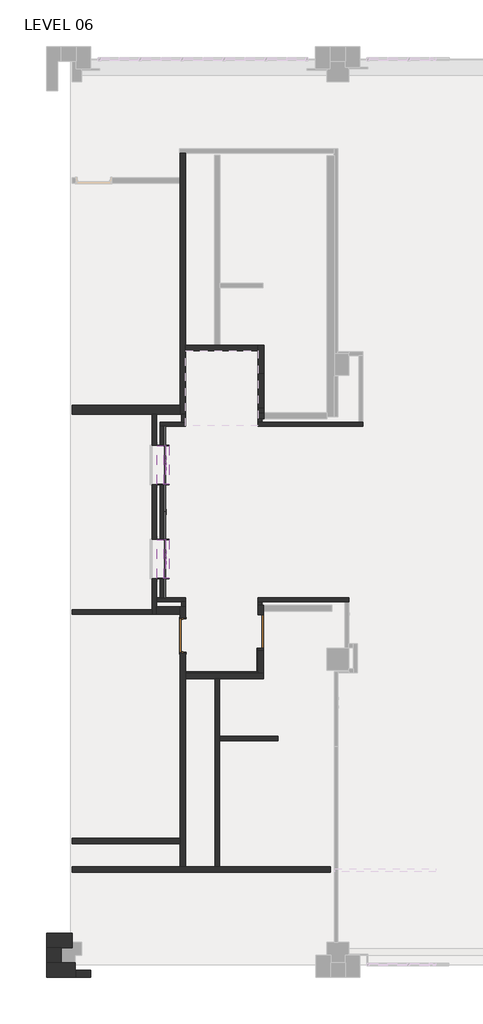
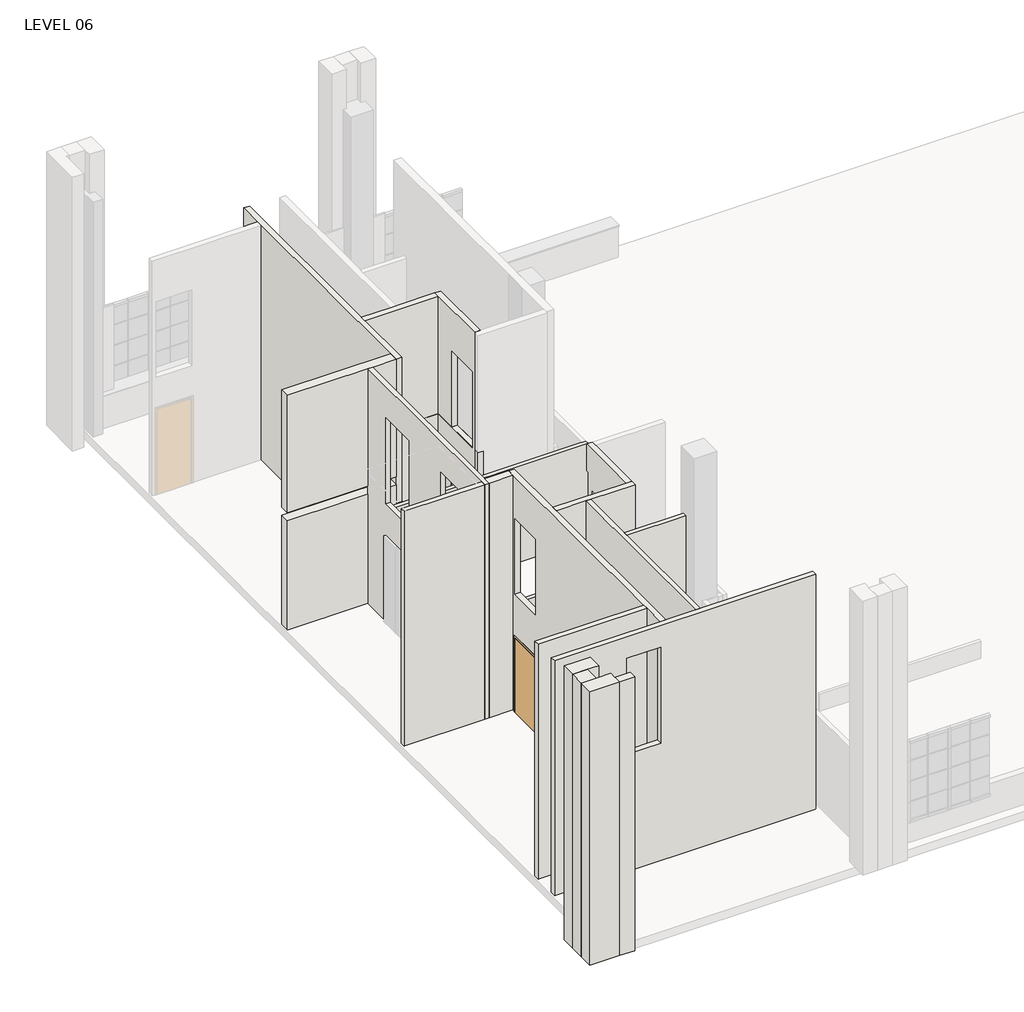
# One storey, part 1 of 16: 36 walls, 14 plates, 10 members, 2 doors.
"""IFC4 building model written with IfcOpenShell, lengths in millimetres."""

from ifc_helpers import new_model, si_unit, point, frame, frame_2d, origin, place, context, project, spatial, polyline, circle_curve, trimmed, segment, composite_curve, outline, extrude, faceted_brep, transform, mapped, element, save
from components import door_d9ca40e4, door_949ad670, rectangular_mullion_marble_portal_362a1233, rectangular_mullion_marble_portal_6dfddb06, rectangular_mullion_marble_portal_c2e89315, empty_system_panel_empty_c0168101, empty_system_panel_empty_2cf1065d, empty_system_panel_empty_6c688f7a, empty_system_panel_empty_e3452742, empty_system_panel_empty_b59d3923, system_panel_velvet_panel_2869b6e6, system_panel_velvet_panel_42ce2fcd, system_panel_velvet_panel_be8211a6, system_panel_velvet_panel_00473839, system_panel_velvet_panel_729e8263

model = new_model("IFC4")

# Units and contexts
model_context = context("Model", 3, world=origin())
ifc_project = project(units=[si_unit("LENGTHUNIT", "METRE", prefix="MILLI")], contexts=[model_context])

# Site, building, storey
site = spatial("IfcSite", under=ifc_project)
building = spatial("IfcBuilding", under=site)
storey = spatial("IfcBuildingStorey", under=building, Name="LEVEL 06", Elevation=17449.8)

# Doors
placement = place(None, origin())
door_shape = door_d9ca40e4(model_context)
element("IfcDoor", 1, ObjectType="Door - Single Plain Panel - No Frame-U : 36\" Wide x 84\" Tall - A", at=placement, inside=storey, context=model_context, shape_type="MappedRepresentation", body=[
    mapped(door_shape, transform((-32238.5623534, -16031.3419725, 17449.8), x_axis=(0.0, -1.0, 0.0), y_axis=(1.0, 0.0, 0.0), z_axis=(0.0, 0.0, 1.0))),
])
door_2_shape = door_949ad670(model_context)
element("IfcDoor", 2, ObjectType="Single - Plain Panel - Hollow Metal Frame : 3'-0\" x 7'-0\" - Interior", at=placement, inside=storey, context=model_context, shape_type="MappedRepresentation", body=[
    mapped(door_2_shape, transform((-34372.1623534, -16145.6419757, 17449.8), x_axis=(0.0, -1.0, 0.0), y_axis=(1.0, 0.0, 0.0), z_axis=(0.0, 0.0, 1.0))),
])

# Members
rectangular_mullion_marble_portal_shape = rectangular_mullion_marble_portal_362a1233(model_context)
element("IfcMember", 3, ObjectType="Rectangular Mullion : MARBLE PORTAL", at=placement, inside=storey, context=model_context, shape_type="MappedRepresentation", body=[
    mapped(rectangular_mullion_marble_portal_shape, transform((-34886.5082298, -14578.1632439, 19888.2), x_axis=(0.0, 0.0, 1.0), y_axis=(-1.0, 0.0, 0.0), z_axis=(0.0, -1.0, 0.0))),
])
element("IfcMember", 4, ObjectType="Rectangular Mullion : MARBLE PORTAL", at=placement, inside=storey, context=model_context, shape_type="MappedRepresentation", body=[
    mapped(rectangular_mullion_marble_portal_shape, transform((-34886.5082298, -12008.1570251, 19888.2), x_axis=(0.0, 0.0, 1.0), y_axis=(-1.0, 0.0, 0.0), z_axis=(0.0, -1.0, 0.0))),
])
rectangular_mullion_marble_portal_2_shape = rectangular_mullion_marble_portal_6dfddb06(model_context)
element("IfcMember", 5, ObjectType="Rectangular Mullion : MARBLE PORTAL", at=placement, inside=storey, context=model_context, shape_type="MappedRepresentation", body=[
    mapped(rectangular_mullion_marble_portal_2_shape, transform((-34886.5082298, -14584.5132439, 17449.8), x_axis=(0.0, -1.0, 0.0), y_axis=(-1.0, 0.0, 0.0), z_axis=(0.0, 0.0, -1.0))),
])
element("IfcMember", 6, ObjectType="Rectangular Mullion : MARBLE PORTAL", at=placement, inside=storey, context=model_context, shape_type="MappedRepresentation", body=[
    mapped(rectangular_mullion_marble_portal_2_shape, transform((-34886.5082298, -13517.7132439, 17449.8), x_axis=(0.0, -1.0, 0.0), y_axis=(-1.0, 0.0, 0.0), z_axis=(0.0, 0.0, -1.0))),
])
element("IfcMember", 7, ObjectType="Rectangular Mullion : MARBLE PORTAL", at=placement, inside=storey, context=model_context, shape_type="MappedRepresentation", body=[
    mapped(rectangular_mullion_marble_portal_2_shape, transform((-34886.5082298, -12014.5070251, 17449.8), x_axis=(0.0, -1.0, 0.0), y_axis=(-1.0, 0.0, 0.0), z_axis=(0.0, 0.0, -1.0))),
])
element("IfcMember", 8, ObjectType="Rectangular Mullion : MARBLE PORTAL", at=placement, inside=storey, context=model_context, shape_type="MappedRepresentation", body=[
    mapped(rectangular_mullion_marble_portal_2_shape, transform((-34886.5082298, -10947.7070251, 17449.8), x_axis=(0.0, -1.0, 0.0), y_axis=(-1.0, 0.0, 0.0), z_axis=(0.0, 0.0, -1.0))),
])
rectangular_mullion_marble_portal_3_shape = rectangular_mullion_marble_portal_c2e89315(model_context)
element("IfcMember", 9, ObjectType="Rectangular Mullion : MARBLE PORTAL", at=placement, inside=storey, context=model_context, shape_type="MappedRepresentation", body=[
    mapped(rectangular_mullion_marble_portal_3_shape, transform((-34886.5082298, -14584.5132439, 17513.3), x_axis=(0.0, -1.0, 0.0), y_axis=(-1.0, 0.0, 0.0), z_axis=(0.0, 0.0, -1.0))),
])
element("IfcMember", 10, ObjectType="Rectangular Mullion : MARBLE PORTAL", at=placement, inside=storey, context=model_context, shape_type="MappedRepresentation", body=[
    mapped(rectangular_mullion_marble_portal_3_shape, transform((-34886.5082298, -13517.7132439, 17513.3), x_axis=(0.0, -1.0, 0.0), y_axis=(-1.0, 0.0, 0.0), z_axis=(0.0, 0.0, -1.0))),
])
element("IfcMember", 11, ObjectType="Rectangular Mullion : MARBLE PORTAL", at=placement, inside=storey, context=model_context, shape_type="MappedRepresentation", body=[
    mapped(rectangular_mullion_marble_portal_3_shape, transform((-34886.5082298, -12014.5070251, 17513.3), x_axis=(0.0, -1.0, 0.0), y_axis=(-1.0, 0.0, 0.0), z_axis=(0.0, 0.0, -1.0))),
])
element("IfcMember", 12, ObjectType="Rectangular Mullion : MARBLE PORTAL", at=placement, inside=storey, context=model_context, shape_type="MappedRepresentation", body=[
    mapped(rectangular_mullion_marble_portal_3_shape, transform((-34886.5082298, -10947.7070251, 17513.3), x_axis=(0.0, -1.0, 0.0), y_axis=(-1.0, 0.0, 0.0), z_axis=(0.0, 0.0, -1.0))),
])

# Plates
empty_system_panel_empty_shape = empty_system_panel_empty_c0168101(model_context)
element("IfcPlate", 13, ObjectType="Empty System Panel : Empty", at=placement, inside=storey, context=model_context, shape_type="MappedRepresentation", body=[
    mapped(empty_system_panel_empty_shape, transform((-34886.5082298, -10679.6496326, 17449.8), x_axis=(0.0, -1.0, 0.0), y_axis=(1.0, 0.0, 0.0), z_axis=(0.0, 0.0, 1.0))),
])
empty_system_panel_empty_2_shape = empty_system_panel_empty_2cf1065d(model_context)
element("IfcPlate", 14, ObjectType="Empty System Panel : Empty", at=placement, inside=storey, context=model_context, shape_type="MappedRepresentation", body=[
    mapped(empty_system_panel_empty_2_shape, transform((-34886.5082298, -11481.1070251, 17449.8), x_axis=(0.0, -1.0, 0.0), y_axis=(1.0, 0.0, 0.0), z_axis=(0.0, 0.0, 1.0))),
])
element("IfcPlate", 15, ObjectType="Empty System Panel : Empty", at=placement, inside=storey, context=model_context, shape_type="MappedRepresentation", body=[
    mapped(empty_system_panel_empty_2_shape, transform((-34886.5082298, -14051.1132439, 17449.8), x_axis=(0.0, -1.0, 0.0), y_axis=(1.0, 0.0, 0.0), z_axis=(0.0, 0.0, 1.0))),
])
empty_system_panel_empty_3_shape = empty_system_panel_empty_6c688f7a(model_context)
element("IfcPlate", 16, ObjectType="Empty System Panel : Empty", at=placement, inside=storey, context=model_context, shape_type="MappedRepresentation", body=[
    mapped(empty_system_panel_empty_3_shape, transform((-34886.5082298, -12393.4835798, 17449.8), x_axis=(0.0, -1.0, 0.0), y_axis=(1.0, 0.0, 0.0), z_axis=(0.0, 0.0, 1.0))),
])
element("IfcPlate", 17, ObjectType="Empty System Panel : Empty", at=placement, inside=storey, context=model_context, shape_type="MappedRepresentation", body=[
    mapped(empty_system_panel_empty_3_shape, transform((-34886.5082298, -13138.7366892, 17449.8), x_axis=(0.0, -1.0, 0.0), y_axis=(1.0, 0.0, 0.0), z_axis=(0.0, 0.0, 1.0))),
])
empty_system_panel_empty_4_shape = empty_system_panel_empty_e3452742(model_context)
element("IfcPlate", 18, ObjectType="Empty System Panel : Empty", at=placement, inside=storey, context=model_context, shape_type="MappedRepresentation", body=[
    mapped(empty_system_panel_empty_4_shape, transform((-34886.5082298, -14853.9026082, 17449.8), x_axis=(0.0, -1.0, 0.0), y_axis=(1.0, 0.0, 0.0), z_axis=(0.0, 0.0, 1.0))),
])
empty_system_panel_empty_5_shape = empty_system_panel_empty_b59d3923(model_context)
element("IfcPlate", 19, ObjectType="Empty System Panel : Empty", at=placement, inside=storey, context=model_context, shape_type="MappedRepresentation", body=[
    mapped(empty_system_panel_empty_5_shape, transform((-34886.5082298, -11481.1070251, 17513.3), x_axis=(0.0, -1.0, 0.0), y_axis=(1.0, 0.0, 0.0), z_axis=(0.0, 0.0, 1.0))),
])
element("IfcPlate", 20, ObjectType="Empty System Panel : Empty", at=placement, inside=storey, context=model_context, shape_type="MappedRepresentation", body=[
    mapped(empty_system_panel_empty_5_shape, transform((-34886.5082298, -14051.1132439, 17513.3), x_axis=(0.0, -1.0, 0.0), y_axis=(1.0, 0.0, 0.0), z_axis=(0.0, 0.0, 1.0))),
])
system_panel_velvet_panel_shape = system_panel_velvet_panel_2869b6e6(model_context)
element("IfcPlate", 21, ObjectType="System Panel : Velvet Panel", at=placement, inside=storey, context=model_context, shape_type="MappedRepresentation", body=[
    mapped(system_panel_velvet_panel_shape, transform((-34886.5082298, -11481.1070251, 19894.55), x_axis=(0.0, -1.0, 0.0), y_axis=(1.0, 0.0, 0.0), z_axis=(0.0, 0.0, 1.0))),
])
element("IfcPlate", 22, ObjectType="System Panel : Velvet Panel", at=placement, inside=storey, context=model_context, shape_type="MappedRepresentation", body=[
    mapped(system_panel_velvet_panel_shape, transform((-34886.5082298, -14051.1132439, 19894.55), x_axis=(0.0, -1.0, 0.0), y_axis=(1.0, 0.0, 0.0), z_axis=(0.0, 0.0, 1.0))),
])
system_panel_velvet_panel_2_shape = system_panel_velvet_panel_42ce2fcd(model_context)
element("IfcPlate", 23, ObjectType="System Panel : Velvet Panel", at=placement, inside=storey, context=model_context, shape_type="MappedRepresentation", body=[
    mapped(system_panel_velvet_panel_2_shape, transform((-34886.5082298, -10682.8246326, 17513.3), x_axis=(0.0, -1.0, 0.0), y_axis=(1.0, 0.0, 0.0), z_axis=(0.0, 0.0, 1.0))),
])
system_panel_velvet_panel_3_shape = system_panel_velvet_panel_be8211a6(model_context)
element("IfcPlate", 24, ObjectType="System Panel : Velvet Panel", at=placement, inside=storey, context=model_context, shape_type="MappedRepresentation", body=[
    mapped(system_panel_velvet_panel_3_shape, transform((-34886.5082298, -12390.3085798, 17513.3), x_axis=(0.0, -1.0, 0.0), y_axis=(1.0, 0.0, 0.0), z_axis=(0.0, 0.0, 1.0))),
])
system_panel_velvet_panel_4_shape = system_panel_velvet_panel_00473839(model_context)
element("IfcPlate", 25, ObjectType="System Panel : Velvet Panel", at=placement, inside=storey, context=model_context, shape_type="MappedRepresentation", body=[
    mapped(system_panel_velvet_panel_4_shape, transform((-34886.5082298, -14850.7276082, 17513.3), x_axis=(0.0, -1.0, 0.0), y_axis=(1.0, 0.0, 0.0), z_axis=(0.0, 0.0, 1.0))),
])
system_panel_velvet_panel_5_shape = system_panel_velvet_panel_729e8263(model_context)
element("IfcPlate", 26, ObjectType="System Panel : Velvet Panel", at=placement, inside=storey, context=model_context, shape_type="MappedRepresentation", body=[
    mapped(system_panel_velvet_panel_5_shape, transform((-34886.5082298, -13141.9116892, 17513.3), x_axis=(0.0, -1.0, 0.0), y_axis=(1.0, 0.0, 0.0), z_axis=(0.0, 0.0, 1.0))),
])

# Walls
element("IfcWall", 27, ObjectType="Generic Exterior - Brick Three Wythe", at=placement, inside=storey, context=model_context, shape_type="SweptSolid", body=[
    extrude(outline(polyline([(-37289.9832298, -25484.083955), (-37289.9832298, -25280.883955), (-36889.9332298, -25280.883955), (-36889.9332298, -25484.083955), (-37289.9832298, -25484.083955)])), frame((0.0, 0.0, 17449.8), z_axis=(0.0, 0.0, 1.0), x_axis=(1.0, 0.0, 0.0)), (0.0, 0.0, 1.0), 7823.2),
])
element("IfcWall", 28, ObjectType="Generic Exterior - Brick Three Wythe", at=placement, inside=storey, context=model_context, shape_type="Brep", body=[
    faceted_brep([(-38099.6082298, -25084.033955, 17449.8), (-38099.6082298, -25084.033955, 25273.0), (-37699.5582298, -25084.033955, 25273.0), (-37309.0332298, -25084.033955, 25273.0), (-37309.0332298, -25084.033955, 24155.4), (-37309.0332298, -25084.033955, 17449.8), (-37699.5582298, -25084.033955, 17449.8), (-38099.6082298, -25484.083955, 17449.8), (-37289.9832298, -25484.083955, 17449.8), (-37289.9832298, -25484.083955, 25273.0), (-38099.6082298, -25484.083955, 25273.0), (-37309.0332298, -25280.883955, 17449.8), (-37289.9832298, -25280.883955, 17449.8), (-37289.9832298, -25280.883955, 25273.0), (-37309.0332298, -25280.883955, 25273.0)], [[[0, 1, 2, 3, 4, 5, 6]], [[7, 8, 9, 10]], [[8, 7, 0, 6, 5, 11, 12]], [[10, 9, 13, 14, 3, 2, 1]], [[9, 8, 12, 13]], [[1, 0, 7, 10]], [[11, 14, 13, 12]], [[14, 11, 5, 4, 3]]]),
])
element("IfcWall", 29, ObjectType="Generic Exterior - Brick Three Wythe", at=placement, inside=storey, context=model_context, shape_type="Brep", body=[
    faceted_brep([(-37699.5582298, -25084.033955, 17449.8), (-37699.5582298, -24674.458955, 17449.8), (-37699.5582298, -24674.458955, 24155.4), (-37699.5582298, -24674.458955, 25273.0), (-37699.5582298, -25084.033955, 25273.0), (-37699.5582298, -25084.033955, 24155.4), (-38099.6082298, -25084.033955, 17449.8), (-38099.6082298, -25084.033955, 25273.0), (-38099.6082298, -24674.458955, 25273.0), (-38099.6082298, -24674.458955, 17449.8)], [[[0, 1, 2, 3, 4, 5]], [[6, 7, 8, 9]], [[1, 0, 6, 9]], [[4, 3, 8, 7]], [[0, 5, 4, 7, 6]], [[3, 2, 1, 9, 8]]]),
])
element("IfcWall", 30, ObjectType="Generic Exterior - Brick Three Wythe", at=placement, inside=storey, context=model_context, shape_type="Brep", body=[
    faceted_brep([(-38099.6082298, -24674.458955, 17449.8), (-37699.5582298, -24674.458955, 17449.8), (-37391.5832298, -24674.458955, 17449.8), (-37391.5832298, -24674.458955, 24155.4), (-37391.5832298, -24674.458955, 25273.0), (-37699.5582298, -24674.458955, 25273.0), (-38099.6082298, -24674.458955, 25273.0), (-38099.6082298, -24274.408955, 17449.8), (-38099.6082298, -24274.408955, 25273.0), (-37791.6332298, -24274.408955, 25273.0), (-37391.5832298, -24274.408955, 25273.0), (-37391.5832298, -24274.408955, 20802.6), (-37391.5832298, -24274.408955, 20574.0), (-37391.5832298, -24274.408955, 17449.8), (-37391.5832298, -24526.3101345, 17449.8)], [[[0, 1, 2, 3, 4, 5, 6]], [[7, 8, 9, 10, 11, 12, 13]], [[2, 1, 0, 7, 13, 14]], [[6, 5, 4, 10, 9, 8]], [[0, 6, 8, 7]], [[4, 3, 2, 14, 13, 12, 11, 10]]]),
])
element("IfcWall", 31, ObjectType="ELEVATOR LOBBY CALL BUTTON PLATE", at=placement, inside=storey, context=model_context, shape_type="SweptSolid", body=[
    extrude(outline(polyline([(-12689.9101345, 18389.6), (-12842.3101345, 18389.6), (-12842.3101345, 19011.9), (-12689.9101345, 19011.9), (-12689.9101345, 18389.6)]), holes=[composite_curve([segment(trimmed(circle_curve(frame_2d((-12766.1101345, 18542.0)), 15.875), [point((-12781.9851345, 18542.0))], [point((-12750.2351345, 18542.0))], True, "CARTESIAN"), True, "CONTINUOUS"), segment(trimmed(circle_curve(frame_2d((-12766.1101345, 18542.0)), 15.875), [point((-12750.2351345, 18542.0))], [point((-12781.9851345, 18542.0))], True, "CARTESIAN"), True, "CONTINUOUS")], self_intersect=False), composite_curve([segment(trimmed(circle_curve(frame_2d((-12766.1101345, 18478.5)), 15.875), [point((-12781.9851345, 18478.5))], [point((-12750.2351345, 18478.5))], True, "CARTESIAN"), True, "CONTINUOUS"), segment(trimmed(circle_curve(frame_2d((-12766.1101345, 18478.5)), 15.875), [point((-12750.2351345, 18478.5))], [point((-12781.9851345, 18478.5))], True, "CARTESIAN"), True, "CONTINUOUS")], self_intersect=False)]), frame((-34848.4082298, 0.0, 0.0), z_axis=(1.0, 0.0, 0.0), x_axis=(0.0, 1.0, 0.0)), (0.0, 0.0, 1.0), 12.7),
])
element("IfcWall", 32, ObjectType="ELEVATOR LOBBY CALL BUTTON PLATE", at=placement, inside=storey, context=model_context, shape_type="SweptSolid", body=[
    extrude(outline(polyline([(-13822.5132439, 19977.1), (-14279.7132439, 19977.1), (-14279.7132439, 20104.1), (-13822.5132439, 20104.1), (-13822.5132439, 19977.1)]), holes=[polyline([(-13987.6132439, 20078.7), (-14114.6132439, 20078.7), (-14114.6132439, 20002.5), (-13987.6132439, 20002.5), (-13987.6132439, 20078.7)])]), frame((-34848.4082298, 0.0, 0.0), z_axis=(1.0, 0.0, 0.0), x_axis=(0.0, 1.0, 0.0)), (0.0, 0.0, 1.0), 12.7),
])
element("IfcWall", 33, ObjectType="ELEVATOR LOBBY CALL BUTTON PLATE", at=placement, inside=storey, context=model_context, shape_type="SweptSolid", body=[
    extrude(outline(polyline([(-11252.5070251, 19977.1), (-11709.7070251, 19977.1), (-11709.7070251, 20104.1), (-11252.5070251, 20104.1), (-11252.5070251, 19977.1)]), holes=[polyline([(-11417.6070251, 20078.7), (-11544.6070251, 20078.7), (-11544.6070251, 20002.5), (-11417.6070251, 20002.5), (-11417.6070251, 20078.7)])]), frame((-34848.4082298, 0.0, 0.0), z_axis=(1.0, 0.0, 0.0), x_axis=(0.0, 1.0, 0.0)), (0.0, 0.0, 1.0), 12.7),
])
element("IfcWall", 34, ObjectType="Generic Existing Interior Partition - 10\"", at=placement, inside=storey, context=model_context, shape_type="Brep", body=[
    faceted_brep([(-37391.5832298, -10100.4419757, 17449.8), (-35216.7082298, -10100.4419757, 17449.8), (-35089.7082298, -10100.4419757, 17449.8), (-34448.3582282, -10100.4419757, 17449.8), (-34448.3582282, -10100.4419757, 20574.0), (-37391.5832298, -10100.4419757, 20574.0), (-34448.3582282, -9846.4419757, 17449.8), (-37391.5832298, -9846.4419757, 17449.8), (-37391.5832298, -9846.4419757, 20574.0), (-34448.3582282, -9846.4419757, 20574.0)], [[[0, 1, 2, 3, 4, 5]], [[6, 7, 8, 9]], [[3, 2, 1, 0, 7, 6]], [[7, 0, 5, 8]], [[5, 4, 9, 8]], [[3, 6, 9, 4]]]),
    faceted_brep([(-34448.3582282, -10100.4419757, 24155.4), (-35089.7082298, -10100.4419757, 24155.4), (-35216.7082298, -10100.4419757, 24155.4), (-37391.5832298, -10100.4419757, 24155.4), (-37391.5832298, -10100.4419757, 20802.6), (-34448.3582282, -10100.4419757, 20802.6), (-37391.5832298, -9846.4419757, 24155.4), (-34448.3582282, -9846.4419757, 24155.4), (-34448.3582282, -9846.4419757, 20802.6), (-37391.5832298, -9846.4419757, 20802.6)], [[[0, 1, 2, 3, 4, 5]], [[6, 7, 8, 9]], [[3, 2, 1, 0, 7, 6]], [[3, 6, 9, 4]], [[5, 4, 9, 8]], [[7, 0, 5, 8]]]),
])
element("IfcWall", 35, ObjectType="Generic Existing Interior Partition - 5\"", at=placement, inside=storey, context=model_context, shape_type="Brep", body=[
    faceted_brep([(-35216.7082298, -15561.4419757, 24155.4), (-35216.7082298, -15434.4419757, 24155.4), (-35216.7082298, -10100.4419757, 24155.4), (-35216.7082298, -10100.4419757, 17449.8), (-35216.7082298, -10940.3857568, 17449.8), (-35216.7082298, -10940.3857568, 19913.6), (-35216.7082298, -12019.8857568, 19913.6), (-35216.7082298, -12019.8857568, 17449.8), (-35216.7082298, -13510.3919757, 17449.8), (-35216.7082298, -13510.3919757, 19913.6), (-35216.7082298, -14589.8919757, 19913.6), (-35216.7082298, -14589.8919757, 17449.8), (-35216.7082298, -15434.4419757, 17449.8), (-35216.7082298, -15561.4419757, 17449.8), (-35216.7082298, -10940.3857568, 20802.6), (-35216.7082298, -10940.3857568, 23266.4), (-35216.7082298, -12019.8857568, 23266.4), (-35216.7082298, -12019.8857568, 20802.6), (-35216.7082298, -13510.3919757, 20802.6), (-35216.7082298, -13510.3919757, 23266.4), (-35216.7082298, -14589.8919757, 23266.4), (-35216.7082298, -14589.8919757, 20802.6), (-35089.7082298, -10100.4419757, 24155.4), (-35089.7082298, -15358.2419757, 24155.4), (-35089.7082298, -15561.4419757, 24155.4), (-35089.7082298, -15561.4419757, 17449.8), (-35089.7082298, -15358.2419757, 17449.8), (-35089.7082298, -14589.8919757, 17449.8), (-35089.7082298, -14589.8919757, 19913.6), (-35089.7082298, -13510.3919757, 19913.6), (-35089.7082298, -13510.3919757, 17449.8), (-35089.7082298, -12019.8857568, 17449.8), (-35089.7082298, -12019.8857568, 19913.6), (-35089.7082298, -10940.3857568, 19913.6), (-35089.7082298, -10940.3857568, 17449.8), (-35089.7082298, -10100.4419757, 17449.8), (-35089.7082298, -10940.3857568, 23266.4), (-35089.7082298, -10940.3857568, 20802.6), (-35089.7082298, -12019.8857568, 20802.6), (-35089.7082298, -12019.8857568, 23266.4), (-35089.7082298, -13510.3919757, 23266.4), (-35089.7082298, -13510.3919757, 20802.6), (-35089.7082298, -14589.8919757, 20802.6), (-35089.7082298, -14589.8919757, 23266.4)], [[[0, 1, 2, 3, 4, 5, 6, 7, 8, 9, 10, 11, 12, 13], [14, 15, 16, 17], [18, 19, 20, 21]], [[22, 23, 24, 25, 26, 27, 28, 29, 30, 31, 32, 33, 34, 35], [36, 37, 38, 39], [40, 41, 42, 43]], [[3, 35, 34, 4]], [[25, 13, 12, 11, 27, 26]], [[30, 8, 7, 31]], [[2, 1, 0, 24, 23, 22]], [[3, 2, 22, 35]], [[0, 13, 25, 24]], [[29, 9, 8, 30]], [[9, 29, 28, 10]], [[10, 28, 27, 11]], [[33, 5, 4, 34]], [[5, 33, 32, 6]], [[6, 32, 31, 7]], [[14, 37, 36, 15]], [[15, 36, 39, 16]], [[16, 39, 38, 17]], [[37, 14, 17, 38]], [[18, 41, 40, 19]], [[19, 40, 43, 20]], [[20, 43, 42, 21]], [[41, 18, 21, 42]]]),
])
element("IfcWall", 36, ObjectType="Generic Existing Interior Partition - 5\"", at=placement, inside=storey, context=model_context, shape_type="SweptSolid", body=[
    extrude(outline(polyline([(-37391.5832298, -15434.4419757), (-35216.7082298, -15434.4419757), (-35216.7082298, -15561.4419757), (-37391.5832298, -15561.4419757), (-37391.5832298, -15434.4419757)])), frame((0.0, 0.0, 17449.8), z_axis=(0.0, 0.0, 1.0), x_axis=(1.0, 0.0, 0.0)), (0.0, 0.0, 1.0), 6705.6),
])
element("IfcWall", 37, ObjectType="Generic Existing Interior Partition - 5\"", at=placement, inside=storey, context=model_context, shape_type="Brep", body=[
    faceted_brep([(-33495.8583836, -17320.3919741, 17449.8), (-33495.8583836, -22457.5417134, 17449.8), (-33495.8583836, -22457.5417134, 24155.4), (-33495.8583836, -17320.3919741, 24155.4), (-33368.8583836, -17320.3919741, 17449.8), (-33368.8583836, -17320.3919741, 24155.4), (-33368.8583836, -18890.4294741, 24155.4), (-33368.8583836, -19014.2544741, 24155.4), (-33368.8583836, -22457.5417134, 24155.4), (-33368.8583836, -22457.5417134, 17449.8), (-33368.8583836, -19014.2544741, 17449.8), (-33368.8583836, -18890.4294741, 17449.8)], [[[0, 1, 2, 3]], [[4, 5, 6, 7, 8, 9, 10, 11]], [[1, 0, 4, 11, 10, 9]], [[3, 2, 8, 7, 6, 5]], [[2, 1, 9, 8]], [[0, 3, 5, 4]]]),
])
element("IfcWall", 38, ObjectType="Generic Existing Interior Partition - 6\"", at=placement, inside=storey, context=model_context, shape_type="Brep", body=[
    faceted_brep([(-34448.3582282, -2971.8, 17449.8), (-34448.3582282, -3629.025, 17449.8), (-34448.3582282, -3781.425, 17449.8), (-34448.3582282, -9846.4419757, 17449.8), (-34448.3582282, -10100.4419757, 17449.8), (-34448.3582282, -10100.4419757, 20574.0), (-34448.3582282, -10100.4419757, 20802.6), (-34448.3582282, -10100.4419757, 24155.4), (-34448.3582282, -9846.4419757, 24155.4), (-34448.3582282, -3781.425, 24155.4), (-34448.3582282, -3629.025, 24155.4), (-34448.3582282, -3092.45, 24155.4), (-34448.3582282, -2968.625, 24155.4), (-34448.3582282, -2968.625, 23545.8), (-34448.3582282, -2917.825, 23545.8), (-34448.3582282, -2917.825, 20802.6), (-34448.3582282, -2968.625, 20802.6), (-34448.3582282, -2971.8, 20802.6), (-34295.9582282, -2971.8, 17449.8), (-34295.9582282, -2971.8, 20802.6), (-34295.9582282, -2917.825, 20802.6), (-34295.9582282, -2917.825, 23545.8), (-34295.9582282, -2968.625, 23545.8), (-34295.9582282, -2968.625, 24155.4), (-34295.9582282, -8208.1418823, 24155.4), (-34295.9582282, -8360.5418823, 24155.4), (-34295.9582282, -10100.4419757, 24155.4), (-34295.9582282, -10100.4419757, 17449.8), (-34295.9582282, -8360.5418823, 17449.8), (-34295.9582282, -8208.1418823, 17449.8)], [[[0, 1, 2, 3, 4, 5, 6, 7, 8, 9, 10, 11, 12, 13, 14, 15, 16, 17]], [[18, 19, 20, 21, 22, 23, 24, 25, 26, 27, 28, 29]], [[4, 3, 2, 1, 0, 18, 29, 28, 27]], [[7, 6, 5, 4, 27, 26]], [[12, 11, 10, 9, 8, 7, 26, 25, 24, 23]], [[0, 17, 19, 18]], [[15, 20, 19, 17, 16]], [[13, 22, 21, 14]], [[15, 14, 21, 20]], [[13, 12, 23, 22]]]),
])
element("IfcWall", 39, ObjectType="Generic Existing Interior Partition - 6\"", at=placement, inside=storey, context=model_context, shape_type="Brep", body=[
    faceted_brep([(-32157.5972362, -8208.1418823, 24155.4), (-32157.5972362, -10062.3422401, 24155.4), (-32157.5972362, -10062.3422401, 17449.8), (-32157.5972362, -9935.3422401, 17449.8), (-32157.5972362, -9935.3422401, 19913.6), (-32157.5972362, -8970.1422401, 19913.6), (-32157.5972362, -8970.1422401, 17449.8), (-32157.5972362, -8208.1418823, 17449.8), (-32157.5972362, -8995.5422401, 22961.6), (-32157.5972362, -8995.5422401, 20802.6), (-32157.5972362, -9960.7422401, 20802.6), (-32157.5972362, -9960.7422401, 22961.6), (-32309.9972362, -10062.3422401, 24155.4), (-32309.9972362, -8360.5418823, 24155.4), (-32309.9972362, -8208.1418823, 24155.4), (-32309.9972362, -8208.1418823, 20802.6), (-32309.9972362, -8208.1418823, 17449.8), (-32309.9972362, -8360.5418823, 17449.8), (-32309.9972362, -8970.1422401, 17449.8), (-32309.9972362, -8970.1422401, 19913.6), (-32309.9972362, -9935.3422401, 19913.6), (-32309.9972362, -9935.3422401, 17449.8), (-32309.9972362, -10062.3422401, 17449.8), (-32309.9972362, -10062.3422401, 20802.6), (-32309.9972362, -8995.5422401, 20802.6), (-32309.9972362, -8995.5422401, 22961.6), (-32309.9972362, -9960.7422401, 22961.6), (-32309.9972362, -9960.7422401, 20802.6)], [[[0, 1, 2, 3, 4, 5, 6, 7], [8, 9, 10, 11]], [[12, 13, 14, 15, 16, 17, 18, 19, 20, 21, 22, 23], [24, 25, 26, 27]], [[16, 7, 6, 18, 17]], [[2, 22, 21, 3]], [[1, 0, 14, 13, 12]], [[24, 9, 8, 25]], [[25, 8, 11, 26]], [[26, 11, 10, 27]], [[9, 24, 27, 10]], [[6, 5, 19, 18]], [[5, 4, 20, 19]], [[4, 3, 21, 20]], [[7, 16, 15, 14, 0]], [[2, 1, 12, 23, 22]]]),
])
element("IfcWall", 40, ObjectType="Generic Existing Interior Partition - 6\"", at=placement, inside=storey, context=model_context, shape_type="Brep", body=[
    faceted_brep([(-32309.9972362, -8208.1418823, 24155.4), (-32309.9972362, -8208.1418823, 17449.8), (-33356.158175, -8208.1418823, 17449.8), (-33508.558175, -8208.1418823, 17449.8), (-34295.9582282, -8208.1418823, 17449.8), (-34295.9582282, -8208.1418823, 24155.4), (-33508.558175, -8208.1418823, 24155.4), (-33356.158175, -8208.1418823, 24155.4), (-32309.9972362, -8360.5418823, 17449.8), (-32309.9972362, -8360.5418823, 24155.4), (-34295.9582282, -8360.5418823, 24155.4), (-34295.9582282, -8360.5418823, 17449.8)], [[[0, 1, 2, 3, 4, 5, 6, 7]], [[8, 9, 10, 11]], [[4, 3, 2, 1, 8, 11]], [[0, 7, 6, 5, 10, 9]], [[5, 4, 11, 10]], [[0, 9, 8, 1]]]),
])
element("IfcWall", 41, ObjectType="Generic Existing Interior Partition - 6\"", at=placement, inside=storey, context=model_context, shape_type="Brep", body=[
    faceted_brep([(-34295.9623534, -15358.2419757, 17449.8), (-34295.9623534, -15358.2419757, 24155.4), (-34295.9623534, -17167.9919741, 24155.4), (-34295.9623534, -17320.3919741, 24155.4), (-34295.9623534, -22457.5417134, 24155.4), (-34295.9623534, -22457.5417134, 17449.8), (-34295.9623534, -17320.3919741, 17449.8), (-34295.9623534, -17167.9919741, 17449.8), (-34295.9623534, -16628.2419757, 17449.8), (-34295.9623534, -16628.2419757, 19608.8), (-34295.9623534, -15663.0419757, 19608.8), (-34295.9623534, -15663.0419757, 17449.8), (-34295.9623534, -16602.8419757, 20802.6), (-34295.9623534, -16602.8419757, 22961.6), (-34295.9623534, -15637.6419757, 22961.6), (-34295.9623534, -15637.6419757, 20802.6), (-34448.3623534, -15358.2419757, 24155.4), (-34448.3623534, -15358.2419757, 17449.8), (-34448.3623534, -15561.4419757, 17449.8), (-34448.3623534, -15663.0419757, 17449.8), (-34448.3623534, -15663.0419757, 19608.8), (-34448.3623534, -16628.2419757, 19608.8), (-34448.3623534, -16628.2419757, 17449.8), (-34448.3623534, -21682.8473723, 17449.8), (-34448.3623534, -21835.2473723, 17449.8), (-34448.3623534, -22457.5417134, 17449.8), (-34448.3623534, -22457.5417134, 24155.4), (-34448.3623534, -21835.2473723, 24155.4), (-34448.3623534, -21682.8473723, 24155.4), (-34448.3623534, -15561.4419757, 24155.4), (-34448.3623534, -16602.8419757, 22961.6), (-34448.3623534, -16602.8419757, 20802.6), (-34448.3623534, -15637.6419757, 20802.6), (-34448.3623534, -15637.6419757, 22961.6)], [[[0, 1, 2, 3, 4, 5, 6, 7, 8, 9, 10, 11], [12, 13, 14, 15]], [[16, 17, 18, 19, 20, 21, 22, 23, 24, 25, 26, 27, 28, 29], [30, 31, 32, 33]], [[17, 0, 11, 19, 18]], [[5, 25, 24, 23, 22, 8, 7, 6]], [[1, 0, 17, 16]], [[4, 3, 2, 1, 16, 29, 28, 27, 26]], [[5, 4, 26, 25]], [[9, 8, 22, 21]], [[10, 9, 21, 20]], [[11, 10, 20, 19]], [[12, 31, 30, 13]], [[13, 30, 33, 14]], [[14, 33, 32, 15]], [[31, 12, 15, 32]]]),
])
element("IfcWall", 42, ObjectType="Generic Existing Interior Partition - 6\"", at=placement, inside=storey, context=model_context, shape_type="Brep", body=[
    faceted_brep([(-37391.5832298, -22609.9417134, 17449.8), (-30335.1349596, -22609.9417134, 17449.8), (-30335.1349596, -22609.9417134, 24155.4), (-37391.5832298, -22609.9417134, 24155.4), (-34524.5623534, -22609.9417134, 20802.6), (-35438.9623534, -22609.9417134, 20802.6), (-35438.9623534, -22609.9417134, 23545.8), (-34524.5623534, -22609.9417134, 23545.8), (-30335.1349596, -22457.5417134, 17449.8), (-33368.8583836, -22457.5417134, 17449.8), (-33495.8583836, -22457.5417134, 17449.8), (-34295.9623534, -22457.5417134, 17449.8), (-34448.3623534, -22457.5417134, 17449.8), (-37391.5832298, -22457.5417134, 17449.8), (-37391.5832298, -22457.5417134, 24155.4), (-34448.3623534, -22457.5417134, 24155.4), (-34295.9623534, -22457.5417134, 24155.4), (-33495.8583836, -22457.5417134, 24155.4), (-33368.8583836, -22457.5417134, 24155.4), (-30335.1349596, -22457.5417134, 24155.4), (-35438.9623534, -22457.5417134, 20802.6), (-34524.5623534, -22457.5417134, 20802.6), (-34524.5623534, -22457.5417134, 23545.8), (-35438.9623534, -22457.5417134, 23545.8)], [[[0, 1, 2, 3], [4, 5, 6, 7]], [[8, 9, 10, 11, 12, 13, 14, 15, 16, 17, 18, 19], [20, 21, 22, 23]], [[1, 0, 13, 12, 11, 10, 9, 8]], [[2, 1, 8, 19]], [[3, 2, 19, 18, 17, 16, 15, 14]], [[0, 3, 14, 13]], [[20, 5, 4, 21]], [[21, 4, 7, 22]], [[22, 7, 6, 23]], [[5, 20, 23, 6]]]),
])
element("IfcWall", 43, ObjectType="Generic Existing Interior Partition - 6\"", at=placement, inside=storey, context=model_context, shape_type="Brep", body=[
    faceted_brep([(-34295.9623534, -17320.3919741, 17449.8), (-33495.8583836, -17320.3919741, 17449.8), (-33368.8583836, -17320.3919741, 17449.8), (-32162.3623534, -17320.3919741, 17449.8), (-32162.3623534, -17320.3919741, 24155.4), (-33368.8583836, -17320.3919741, 24155.4), (-33495.8583836, -17320.3919741, 24155.4), (-34295.9623534, -17320.3919741, 24155.4), (-34295.9623534, -17167.9919741, 17449.8), (-34295.9623534, -17167.9919741, 24155.4), (-32314.7623534, -17167.9919741, 24155.4), (-32162.3623534, -17167.9919741, 24155.4), (-32162.3623534, -17167.9919741, 17449.8), (-32314.7623534, -17167.9919741, 17449.8)], [[[0, 1, 2, 3, 4, 5, 6, 7]], [[8, 9, 10, 11, 12, 13]], [[3, 2, 1, 0, 8, 13, 12]], [[7, 6, 5, 4, 11, 10, 9]], [[0, 7, 9, 8]], [[4, 3, 12, 11]]]),
])
element("IfcWall", 44, ObjectType="Generic Existing Interior Partition - 6\"", at=placement, inside=storey, context=model_context, shape_type="Brep", body=[
    faceted_brep([(-32162.3623534, -15320.1419725, 24155.4), (-32162.3623534, -15472.5419725, 24155.4), (-32162.3623534, -17167.9919741, 24155.4), (-32162.3623534, -17167.9919741, 17449.8), (-32162.3623534, -16564.7419725, 17449.8), (-32162.3623534, -16564.7419725, 19913.6), (-32162.3623534, -15599.5419725, 19913.6), (-32162.3623534, -15599.5419725, 19583.4), (-32162.3623534, -15574.1419725, 19583.4), (-32162.3623534, -15574.1419725, 17449.8), (-32162.3623534, -15472.5419725, 17449.8), (-32162.3623534, -15320.1419725, 17449.8), (-32162.3623534, -15320.1419725, 20802.6), (-32162.3623534, -15396.3419725, 20802.6), (-32162.3623534, -15396.3419725, 23393.4), (-32162.3623534, -15320.1419725, 23393.4), (-32162.3623534, -16539.3419725, 20802.6), (-32162.3623534, -16539.3419725, 22961.6), (-32162.3623534, -15574.1419725, 22961.6), (-32162.3623534, -15574.1419725, 20802.6), (-32314.7623534, -17167.9919741, 24155.4), (-32314.7623534, -15320.1419725, 24155.4), (-32314.7623534, -15320.1419725, 23393.4), (-32314.7623534, -15396.3419725, 23393.4), (-32314.7623534, -15396.3419725, 20802.6), (-32314.7623534, -15320.1419725, 20802.6), (-32314.7623534, -15320.1419725, 17449.8), (-32314.7623534, -15574.1419725, 17449.8), (-32314.7623534, -15574.1419725, 19583.4), (-32314.7623534, -15599.5419725, 19583.4), (-32314.7623534, -15599.5419725, 19913.6), (-32314.7623534, -16564.7419725, 19913.6), (-32314.7623534, -16564.7419725, 17449.8), (-32314.7623534, -17167.9919741, 17449.8), (-32314.7623534, -16539.3419725, 22961.6), (-32314.7623534, -16539.3419725, 20802.6), (-32314.7623534, -15574.1419725, 20802.6), (-32314.7623534, -15574.1419725, 22961.6), (-32202.0472362, -15396.3419725, 20802.6), (-32202.0472362, -15320.1419725, 20802.6), (-32202.0472362, -15396.3419725, 23393.4), (-32202.0472362, -15320.1419725, 23393.4)], [[[0, 1, 2, 3, 4, 5, 6, 7, 8, 9, 10, 11, 12, 13, 14, 15], [16, 17, 18, 19]], [[20, 21, 22, 23, 24, 25, 26, 27, 28, 29, 30, 31, 32, 33], [34, 35, 36, 37]], [[3, 33, 32, 4]], [[26, 11, 10, 9, 27]], [[2, 1, 0, 21, 20]], [[3, 2, 20, 33]], [[16, 35, 34, 17]], [[17, 34, 37, 18]], [[18, 37, 36, 19]], [[35, 16, 19, 36]], [[31, 5, 4, 32]], [[5, 31, 30, 6]], [[6, 30, 29, 7]], [[24, 38, 13, 12, 39, 25]], [[13, 38, 24, 23, 40, 14]], [[15, 14, 40, 23, 22, 41]], [[11, 26, 25, 39, 12]], [[28, 8, 7, 29]], [[8, 28, 27, 9]], [[21, 0, 15, 41, 22]]]),
])
element("IfcWall", 45, ObjectType="Generic Existing Interior Partition - 6\"", at=placement, inside=storey, context=model_context, shape_type="SweptSolid", body=[
    extrude(outline(polyline([(-37391.5832298, -21682.8473723), (-34448.3623534, -21682.8473723), (-34448.3623534, -21835.2473723), (-37391.5832298, -21835.2473723), (-37391.5832298, -21682.8473723)])), frame((0.0, 0.0, 17449.8), z_axis=(0.0, 0.0, 1.0), x_axis=(1.0, 0.0, 0.0)), (0.0, 0.0, 1.0), 6705.6),
])
element("IfcWall", 46, ObjectType="Generic Existing Interior Partition - 6\"", at=placement, inside=storey, context=model_context, shape_type="Brep", body=[
    faceted_brep([(-32157.5972362, -10214.7422401, 20802.6), (-32157.5972362, -10214.7422401, 17449.8), (-32157.5972362, -10062.3422401, 17449.8), (-32157.5972362, -8360.5418823, 17449.8), (-32157.5972362, -8360.5418823, 20802.6), (-32157.5972362, -10062.3422401, 20802.6), (-32309.9972362, -10214.7422401, 17449.8), (-32309.9972362, -10214.7422401, 20802.6), (-32309.9972362, -10062.3422401, 20802.6), (-32309.9972362, -8360.5418823, 20802.6), (-32309.9972362, -8360.5418823, 17449.8)], [[[0, 1, 2, 3, 4, 5]], [[6, 7, 8, 9, 10]], [[3, 2, 1, 6, 10]], [[0, 5, 4, 9, 8, 7]], [[4, 3, 10, 9]], [[0, 7, 6, 1]]]),
])
element("IfcWall", 47, ObjectType="Generic Existing Interior Partition - 6\"", at=placement, inside=storey, context=model_context, shape_type="Brep", body=[
    faceted_brep([(-32309.9972362, -8208.1418823, 17449.8), (-33356.158175, -8208.1418823, 17449.8), (-33508.558175, -8208.1418823, 17449.8), (-34295.9582282, -8208.1418823, 17449.8), (-34295.9582282, -8208.1418823, 20802.6), (-32309.9972362, -8208.1418823, 20802.6), (-32309.9972362, -8360.5418823, 17449.8), (-32309.9972362, -8360.5418823, 20802.6), (-34295.9582282, -8360.5418823, 20802.6), (-34295.9582282, -8360.5418823, 17449.8)], [[[0, 1, 2, 3, 4, 5]], [[6, 7, 8, 9]], [[3, 2, 1, 0, 6, 9]], [[5, 4, 8, 7]], [[0, 5, 7, 6]], [[4, 3, 9, 8]]]),
])
element("IfcWall", 48, ObjectType="Generic Existing Interior Partition - 6\"", at=placement, inside=storey, context=model_context, shape_type="SweptSolid", body=[
    extrude(outline(polyline([(-32309.9972362, -8970.1422401), (-32157.5972362, -8970.1422401), (-32157.5972362, -9935.3422401), (-32309.9972362, -9935.3422401), (-32309.9972362, -8970.1422401)])), frame((0.0, 0.0, 17449.8), z_axis=(0.0, 0.0, 1.0), x_axis=(1.0, 0.0, 0.0)), (0.0, 0.0, 1.0), 2463.8),
])
element("IfcWall", 49, ObjectType="Generic Existing Interior Partition - 6\"", at=placement, inside=storey, context=model_context, shape_type="SweptSolid", body=[
    extrude(outline(polyline([(-16564.7419725, 17449.8), (-16564.7419725, 19913.6), (-15599.5419725, 19913.6), (-15599.5419725, 19583.4), (-16488.5419725, 19583.4), (-16488.5419725, 17449.8), (-16564.7419725, 17449.8)])), frame((-32314.7623534, 0.0, 0.0), z_axis=(1.0, 0.0, 0.0), x_axis=(0.0, 1.0, 0.0)), (0.0, 0.0, 1.0), 152.4),
])
element("IfcWall", 50, ObjectType="Generic Existing Interior Partition - 8\"", at=placement, inside=storey, context=model_context, shape_type="SweptSolid", body=[
    extrude(outline(polyline([(-34448.3623534, -15561.4419757), (-35089.7082298, -15561.4419757), (-35089.7082298, -15358.2419757), (-34448.3623534, -15358.2419757), (-34448.3623534, -15561.4419757)])), frame((0.0, 0.0, 17449.8), z_axis=(0.0, 0.0, 1.0), x_axis=(1.0, 0.0, 0.0)), (0.0, 0.0, 1.0), 6705.6),
])
element("IfcWall", 51, ObjectType="Lacquer Panels on 6", at=placement, inside=storey, context=model_context, shape_type="Brep", body=[
    faceted_brep([(-34273.7332282, -17174.3423303, 17526.0), (-32309.9972362, -17174.3423303, 17526.0), (-32309.9972362, -17174.3423303, 20193.0), (-34273.7332282, -17174.3423303, 20193.0), (-34273.7332282, -17136.2423303, 17526.0), (-34273.7332282, -17136.2423303, 20193.0), (-32348.0972362, -17136.2423303, 20193.0), (-32309.9972362, -17136.2423303, 20193.0), (-32309.9972362, -17136.2423303, 17526.0), (-32348.0972362, -17136.2423303, 17526.0)], [[[0, 1, 2, 3]], [[4, 5, 6, 7, 8, 9]], [[1, 0, 4, 9, 8]], [[3, 2, 7, 6, 5]], [[0, 3, 5, 4]], [[2, 1, 8, 7]]]),
])
element("IfcWall", 52, ObjectType="Lacquer Panels on 6", at=placement, inside=storey, context=model_context, shape_type="SweptSolid", body=[
    extrude(outline(polyline([(-32348.0972362, -17136.2423303), (-32348.0972362, -16488.5419725), (-32309.9972362, -16488.5419725), (-32309.9972362, -17136.2423303), (-32348.0972362, -17136.2423303)])), frame((0.0, 0.0, 17526.0), z_axis=(0.0, 0.0, 1.0), x_axis=(1.0, 0.0, 0.0)), (0.0, 0.0, 1.0), 2667.0),
])
element("IfcWall", 53, ObjectType="Partition A3_", at=placement, inside=storey, context=model_context, shape_type="SweptSolid", body=[
    extrude(outline(polyline([(-31775.0086799, -19014.2544741), (-33368.8583836, -19014.2544741), (-33368.8583836, -18890.4294741), (-31775.0086799, -18890.4294741), (-31775.0086799, -19014.2544741)])), frame((0.0, 0.0, 17449.8), z_axis=(0.0, 0.0, 1.0), x_axis=(1.0, 0.0, 0.0)), (0.0, 0.0, 1.0), 6705.6),
])
element("IfcWall", 54, ObjectType="Partition D3A", at=placement, inside=storey, context=model_context, shape_type="Brep", body=[
    faceted_brep([(-34994.4582298, -10417.9422401, 17449.8), (-34886.5082298, -10417.9422401, 17449.8), (-34292.7832282, -10417.9422401, 17449.8), (-34292.7832282, -10417.9422401, 19888.2), (-32309.9972362, -10417.9422401, 19888.2), (-32309.9972362, -10417.9422401, 17449.8), (-29446.1349596, -10417.9422401, 17449.8), (-29446.1349596, -10417.9422401, 20193.0), (-34886.5082298, -10417.9422401, 20193.0), (-34994.4582298, -10417.9422401, 20193.0), (-34994.4582298, -10309.9922401, 17449.8), (-34994.4582298, -10309.9922401, 20193.0), (-29554.0849596, -10309.9922401, 20193.0), (-29446.1349596, -10309.9922401, 20193.0), (-29446.1349596, -10309.9922401, 17449.8), (-29554.0849596, -10309.9922401, 17449.8), (-32202.0472362, -10309.9922401, 17449.8), (-32309.9972362, -10309.9922401, 17449.8), (-32309.9972362, -10309.9922401, 19888.2), (-34292.7832282, -10309.9922401, 19888.2), (-34292.7832282, -10309.9922401, 17449.8), (-34400.7332282, -10309.9922401, 17449.8)], [[[0, 1, 2, 3, 4, 5, 6, 7, 8, 9]], [[10, 11, 12, 13, 14, 15, 16, 17, 18, 19, 20, 21]], [[2, 1, 0, 10, 21, 20]], [[9, 8, 7, 13, 12, 11]], [[4, 3, 19, 18]], [[6, 5, 17, 16, 15, 14]], [[3, 2, 20, 19]], [[5, 4, 18, 17]], [[0, 9, 11, 10]], [[7, 6, 14, 13]]]),
])
element("IfcWall", 55, ObjectType="Partition D3A", at=placement, inside=storey, context=model_context, shape_type="Brep", body=[
    faceted_brep([(-34292.7832282, -10309.9922401, 20040.6), (-34292.7832282, -10309.9922401, 19888.2), (-34292.7832282, -10309.9922401, 17449.8), (-34292.7832282, -10100.4419757, 17449.8), (-34292.7832282, -10100.4419757, 20040.6), (-34400.7332282, -10309.9922401, 17449.8), (-34400.7332282, -10309.9922401, 20040.6), (-34400.7332282, -10100.4419757, 20040.6), (-34400.7332282, -10100.4419757, 17449.8)], [[[0, 1, 2, 3, 4]], [[5, 6, 7, 8]], [[3, 2, 5, 8]], [[4, 3, 8, 7]], [[0, 4, 7, 6]], [[0, 6, 5, 2, 1]]]),
])
element("IfcWall", 56, ObjectType="Partition D3A", at=placement, inside=storey, context=model_context, shape_type="Brep", body=[
    faceted_brep([(-32202.0472362, -10309.9922401, 20040.6), (-32202.0472362, -10309.9922401, 17449.8), (-32202.0472362, -10214.7422401, 17449.8), (-32202.0472362, -10214.7422401, 20040.6), (-32309.9972362, -10309.9922401, 17449.8), (-32309.9972362, -10309.9922401, 19888.2), (-32309.9972362, -10309.9922401, 20040.6), (-32309.9972362, -10214.7422401, 20040.6), (-32309.9972362, -10214.7422401, 17449.8)], [[[0, 1, 2, 3]], [[4, 5, 6, 7, 8]], [[2, 1, 4, 8]], [[0, 3, 7, 6]], [[3, 2, 8, 7]], [[0, 6, 5, 4, 1]]]),
])
element("IfcWall", 57, ObjectType="Partition D3A", at=placement, inside=storey, context=model_context, shape_type="Brep", body=[
    faceted_brep([(-35072.2457298, -15224.8919725, 17449.8), (-34400.7332282, -15224.8919725, 17449.8), (-34292.7832282, -15224.8919725, 17449.8), (-34292.7832282, -15224.8919725, 19888.2), (-32309.9972362, -15224.8919725, 19888.2), (-32309.9972362, -15224.8919725, 17449.8), (-32202.0472362, -15224.8919725, 17449.8), (-29935.0849596, -15224.8919725, 17449.8), (-29827.1349596, -15224.8919725, 17449.8), (-29827.1349596, -15224.8919725, 20193.0), (-35072.2457298, -15224.8919725, 20193.0), (-35072.2457298, -15116.9419725, 17449.8), (-35072.2457298, -15116.9419725, 20193.0), (-34994.4582298, -15116.9419725, 20193.0), (-34886.5082298, -15116.9419725, 20193.0), (-29827.1349596, -15116.9419725, 20193.0), (-29827.1349596, -15116.9419725, 17449.8), (-32309.9972362, -15116.9419725, 17449.8), (-32309.9972362, -15116.9419725, 19888.2), (-34292.7832282, -15116.9419725, 19888.2), (-34292.7832282, -15116.9419725, 17449.8), (-34886.5082298, -15116.9419725, 17449.8), (-34994.4582298, -15116.9419725, 17449.8)], [[[0, 1, 2, 3, 4, 5, 6, 7, 8, 9, 10]], [[11, 12, 13, 14, 15, 16, 17, 18, 19, 20, 21, 22]], [[2, 1, 0, 11, 22, 21, 20]], [[10, 9, 15, 14, 13, 12]], [[0, 10, 12, 11]], [[4, 3, 19, 18]], [[8, 7, 6, 5, 17, 16]], [[3, 2, 20, 19]], [[5, 4, 18, 17]], [[9, 8, 16, 15]]]),
])
element("IfcWall", 58, ObjectType="Partition D3A", at=placement, inside=storey, context=model_context, shape_type="Brep", body=[
    faceted_brep([(-34400.7332282, -15224.8919725, 20040.6), (-34400.7332282, -15224.8919725, 17449.8), (-34400.7332282, -15358.2419757, 17449.8), (-34400.7332282, -15358.2419757, 20040.6), (-34292.7832282, -15224.8919725, 17449.8), (-34292.7832282, -15224.8919725, 19888.2), (-34292.7832282, -15224.8919725, 20040.6), (-34292.7832282, -15358.2419757, 20040.6), (-34292.7832282, -15358.2419757, 17449.8)], [[[0, 1, 2, 3]], [[4, 5, 6, 7, 8]], [[2, 1, 4, 8]], [[3, 2, 8, 7]], [[0, 3, 7, 6]], [[0, 6, 5, 4, 1]]]),
])
element("IfcWall", 59, ObjectType="Partition D3A", at=placement, inside=storey, context=model_context, shape_type="Brep", body=[
    faceted_brep([(-32309.9972362, -15224.8919725, 20040.6), (-32309.9972362, -15224.8919725, 19888.2), (-32309.9972362, -15224.8919725, 17449.8), (-32309.9972362, -15320.1419725, 17449.8), (-32309.9972362, -15320.1419725, 20040.6), (-32202.0472362, -15224.8919725, 17449.8), (-32202.0472362, -15224.8919725, 20040.6), (-32202.0472362, -15320.1419725, 20040.6), (-32202.0472362, -15320.1419725, 17449.8)], [[[0, 1, 2, 3, 4]], [[5, 6, 7, 8]], [[3, 2, 5, 8]], [[0, 4, 7, 6]], [[0, 6, 5, 2, 1]], [[4, 3, 8, 7]]]),
])
element("IfcWall", 60, ObjectType="Partition D3A", at=placement, inside=storey, context=model_context, shape_type="SweptSolid", body=[
    extrude(outline(polyline([(-34886.5082298, -10417.9422401), (-34886.5082298, -10928.6570251), (-34994.4582298, -10928.6570251), (-34994.4582298, -10417.9422401), (-34886.5082298, -10417.9422401)])), frame((0.0, 0.0, 17449.8), z_axis=(0.0, 0.0, 1.0), x_axis=(1.0, 0.0, 0.0)), (0.0, 0.0, 1.0), 2743.2),
])
element("IfcWall", 61, ObjectType="Partition D3A", at=placement, inside=storey, context=model_context, shape_type="SweptSolid", body=[
    extrude(outline(polyline([(-34886.5082298, -12033.5570251), (-34886.5082298, -13498.6632439), (-34994.4582298, -13498.6632439), (-34994.4582298, -12033.5570251), (-34886.5082298, -12033.5570251)])), frame((0.0, 0.0, 17449.8), z_axis=(0.0, 0.0, 1.0), x_axis=(1.0, 0.0, 0.0)), (0.0, 0.0, 1.0), 2743.2),
])
element("IfcWall", 62, ObjectType="Partition D3A", at=placement, inside=storey, context=model_context, shape_type="SweptSolid", body=[
    extrude(outline(polyline([(-34886.5082298, -14603.5632439), (-34886.5082298, -15116.9419725), (-34994.4582298, -15116.9419725), (-34994.4582298, -14603.5632439), (-34886.5082298, -14603.5632439)])), frame((0.0, 0.0, 17449.8), z_axis=(0.0, 0.0, 1.0), x_axis=(1.0, 0.0, 0.0)), (0.0, 0.0, 1.0), 2743.2),
])

save(model, "model.ifc")
